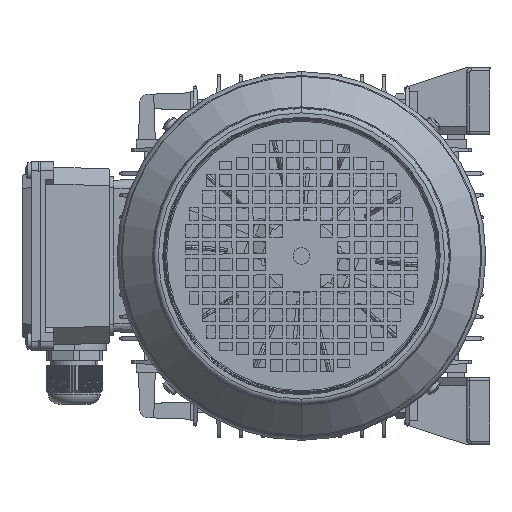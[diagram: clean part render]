
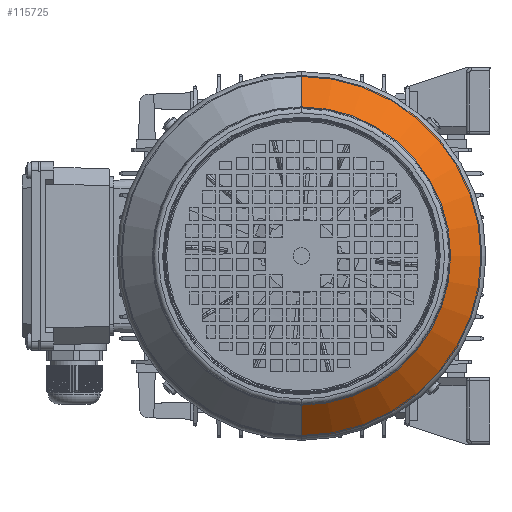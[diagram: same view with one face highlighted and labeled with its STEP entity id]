
A CAD part, left-side view. The second image highlights one B-rep face of the part: STEP entity #115725.
In plain terms, the highlighted conical face has half-angle 45 degrees and reference radius 88.586 mm.
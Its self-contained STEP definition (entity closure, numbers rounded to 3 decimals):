
#3201 = AXIS2_PLACEMENT_3D ( 'NONE', #89279, #38891, #26253 ) ;
#8758 = EDGE_CURVE ( 'NONE', #75274, #48102, #72045, .T. ) ;
#10988 = DIRECTION ( 'NONE',  ( -0.707, 0., -0.707 ) ) ;
#11323 = CARTESIAN_POINT ( 'NONE',  ( 171.414, 0., 88.586 ) ) ;
#13849 = EDGE_CURVE ( 'NONE', #75274, #83589, #34581, .T. ) ;
#22014 = ORIENTED_EDGE ( 'NONE', *, *, #110341, .T. ) ;
#23621 = CARTESIAN_POINT ( 'NONE',  ( 171.414, 0., -88.586 ) ) ;
#26253 = DIRECTION ( 'NONE',  ( 0., 0., 1. ) ) ;
#34581 = CIRCLE ( 'NONE', #76015, 88.586 ) ;
#36205 = LINE ( 'NONE', #23621, #54912 ) ;
#36889 = VERTEX_POINT ( 'NONE', #53067 ) ;
#38891 = DIRECTION ( 'NONE',  ( -1., 0., 0. ) ) ;
#38898 = VECTOR ( 'NONE', #46834, 1000. ) ;
#42023 = EDGE_LOOP ( 'NONE', ( #92274, #22014, #104637, #90052 ) ) ;
#46834 = DIRECTION ( 'NONE',  ( -0.707, 0., 0.707 ) ) ;
#48102 = VERTEX_POINT ( 'NONE', #110286 ) ;
#51931 = AXIS2_PLACEMENT_3D ( 'NONE', #83902, #71368, #58764 ) ;
#53067 = CARTESIAN_POINT ( 'NONE',  ( 152.793, 0., -107.207 ) ) ;
#53579 = CARTESIAN_POINT ( 'NONE',  ( 171.414, 0., -88.586 ) ) ;
#54912 = VECTOR ( 'NONE', #10988, 1000. ) ;
#58764 = DIRECTION ( 'NONE',  ( 0., 0., 1. ) ) ;
#59453 = CARTESIAN_POINT ( 'NONE',  ( 171.414, 0., 88.586 ) ) ;
#71368 = DIRECTION ( 'NONE',  ( -1., 0., 0. ) ) ;
#72045 = LINE ( 'NONE', #59453, #38898 ) ;
#75274 = VERTEX_POINT ( 'NONE', #11323 ) ;
#75303 = CONICAL_SURFACE ( 'NONE', #3201, 88.586, 0.785 ) ;
#76015 = AXIS2_PLACEMENT_3D ( 'NONE', #120456, #107881, #95291 ) ;
#83589 = VERTEX_POINT ( 'NONE', #53579 ) ;
#83902 = CARTESIAN_POINT ( 'NONE',  ( 152.793, 0., 0. ) ) ;
#89279 = CARTESIAN_POINT ( 'NONE',  ( 171.414, 0., 0. ) ) ;
#90052 = ORIENTED_EDGE ( 'NONE', *, *, #8758, .F. ) ;
#92274 = ORIENTED_EDGE ( 'NONE', *, *, #13849, .T. ) ;
#94468 = FACE_OUTER_BOUND ( 'NONE', #42023, .T. ) ;
#95291 = DIRECTION ( 'NONE',  ( 0., 0., 1. ) ) ;
#104637 = ORIENTED_EDGE ( 'NONE', *, *, #119257, .F. ) ;
#107881 = DIRECTION ( 'NONE',  ( -1., 0., 0. ) ) ;
#110286 = CARTESIAN_POINT ( 'NONE',  ( 152.793, 0., 107.207 ) ) ;
#110341 = EDGE_CURVE ( 'NONE', #83589, #36889, #36205, .T. ) ;
#114992 = CIRCLE ( 'NONE', #51931, 107.207 ) ;
#115725 = ADVANCED_FACE ( 'NONE', ( #94468 ), #75303, .T. ) ;
#119257 = EDGE_CURVE ( 'NONE', #48102, #36889, #114992, .T. ) ;
#120456 = CARTESIAN_POINT ( 'NONE',  ( 171.414, 0., 0. ) ) ;
